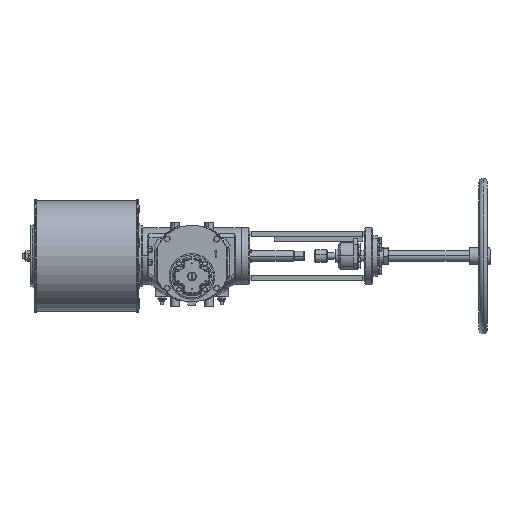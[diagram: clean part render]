
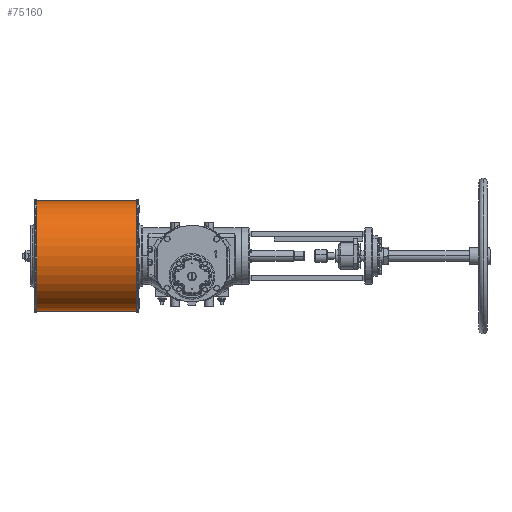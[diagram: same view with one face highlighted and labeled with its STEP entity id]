
A CAD part, top view. The second image highlights one B-rep face of the part: STEP entity #75160.
In plain terms, the highlighted cylindrical face has radius 162.5 mm (diameter 325 mm), a partial arc.
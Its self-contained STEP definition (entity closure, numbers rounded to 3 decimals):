
#2486 = DIRECTION ( 'NONE',  ( 0., -1., 0. ) ) ;
#5806 = VECTOR ( 'NONE', #34886, 1000. ) ;
#7200 = EDGE_CURVE ( 'NONE', #23784, #27195, #75712, .T. ) ;
#7761 = CARTESIAN_POINT ( 'NONE',  ( -161.5, 22.5, 57.5 ) ) ;
#7850 = CARTESIAN_POINT ( 'NONE',  ( -161.5, -140., 57.5 ) ) ;
#8234 = CARTESIAN_POINT ( 'NONE',  ( -456.5, 22.5, 57.5 ) ) ;
#9066 = ORIENTED_EDGE ( 'NONE', *, *, #93009, .F. ) ;
#9606 = AXIS2_PLACEMENT_3D ( 'NONE', #7761, #64632, #56641 ) ;
#9799 = DIRECTION ( 'NONE',  ( 0., -1., 0. ) ) ;
#10441 = LINE ( 'NONE', #75292, #5806 ) ;
#10774 = ORIENTED_EDGE ( 'NONE', *, *, #39904, .T. ) ;
#15912 = ORIENTED_EDGE ( 'NONE', *, *, #18642, .T. ) ;
#18642 = EDGE_CURVE ( 'NONE', #79857, #23784, #10441, .T. ) ;
#20830 = LINE ( 'NONE', #69224, #33784 ) ;
#23784 = VERTEX_POINT ( 'NONE', #41856 ) ;
#27195 = VERTEX_POINT ( 'NONE', #42739 ) ;
#32544 = VERTEX_POINT ( 'NONE', #7850 ) ;
#33784 = VECTOR ( 'NONE', #70255, 1000. ) ;
#34039 = ORIENTED_EDGE ( 'NONE', *, *, #7200, .T. ) ;
#34886 = DIRECTION ( 'NONE',  ( -1., 0., 0. ) ) ;
#35526 = CARTESIAN_POINT ( 'NONE',  ( -161.5, 185., 57.5 ) ) ;
#39904 = EDGE_CURVE ( 'NONE', #32544, #79857, #84274, .T. ) ;
#41856 = CARTESIAN_POINT ( 'NONE',  ( -456.5, 185., 57.5 ) ) ;
#42739 = CARTESIAN_POINT ( 'NONE',  ( -456.5, -140., 57.5 ) ) ;
#51761 = EDGE_LOOP ( 'NONE', ( #10774, #15912, #34039, #9066 ) ) ;
#56641 = DIRECTION ( 'NONE',  ( 0., -1., 0. ) ) ;
#60382 = CYLINDRICAL_SURFACE ( 'NONE', #88261, 162.5 ) ;
#64632 = DIRECTION ( 'NONE',  ( -1., 0., 0. ) ) ;
#66142 = DIRECTION ( 'NONE',  ( 1., 0., 0. ) ) ;
#68900 = CARTESIAN_POINT ( 'NONE',  ( -161.5, 22.5, 57.5 ) ) ;
#68977 = AXIS2_PLACEMENT_3D ( 'NONE', #8234, #66142, #9799 ) ;
#69224 = CARTESIAN_POINT ( 'NONE',  ( -161.5, -140., 57.5 ) ) ;
#70255 = DIRECTION ( 'NONE',  ( -1., 0., 0. ) ) ;
#75160 = ADVANCED_FACE ( 'NONE', ( #99176 ), #60382, .T. ) ;
#75292 = CARTESIAN_POINT ( 'NONE',  ( -161.5, 185., 57.5 ) ) ;
#75712 = CIRCLE ( 'NONE', #68977, 162.5 ) ;
#79857 = VERTEX_POINT ( 'NONE', #35526 ) ;
#83782 = DIRECTION ( 'NONE',  ( -1., 0., 0. ) ) ;
#84274 = CIRCLE ( 'NONE', #9606, 162.5 ) ;
#88261 = AXIS2_PLACEMENT_3D ( 'NONE', #68900, #83782, #2486 ) ;
#93009 = EDGE_CURVE ( 'NONE', #32544, #27195, #20830, .T. ) ;
#99176 = FACE_OUTER_BOUND ( 'NONE', #51761, .T. ) ;
